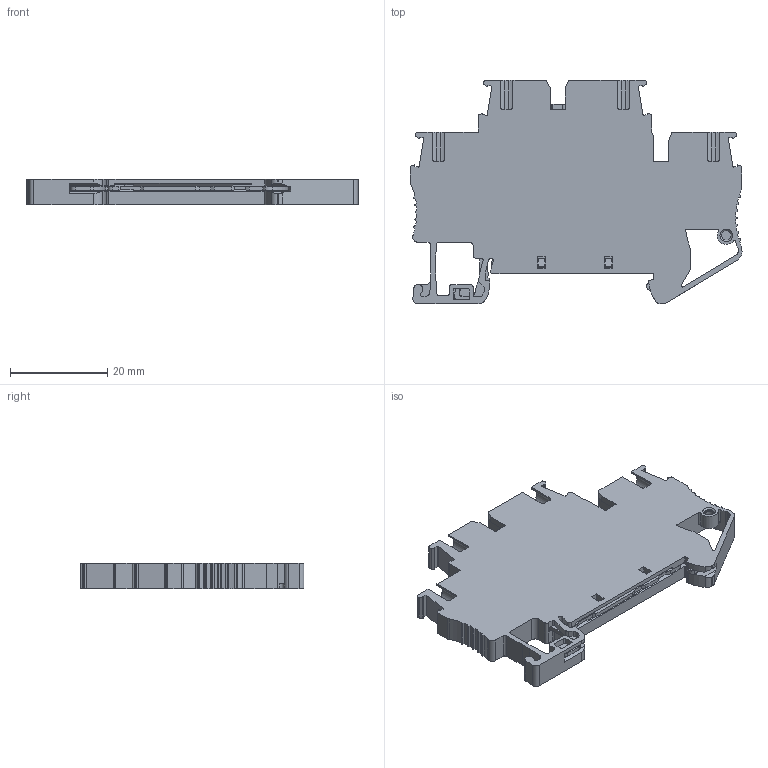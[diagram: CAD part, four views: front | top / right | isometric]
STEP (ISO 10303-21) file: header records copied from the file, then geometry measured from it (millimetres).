
FILE_DESCRIPTION(/* description */ (''),/* implementation_level */ '2;1');
FILE_NAME(/* name */ 'UPT-2.5-2PE ASSY.stp',/* time_stamp */ '2024-04-26T14:33:40+08:00',/* author */ (''),/* organization */ (''),/* preprocessor_version */ 'ST-DEVELOPER v16.7',/* originating_system */ 'SIEMENS PLM Software NX 12.0',/* authorisation */ '');
FILE_SCHEMA (('AUTOMOTIVE_DESIGN { 1 0 10303 214 3 1 1 1 }'));
Length unit declared in the file: millimetre
Products named in the file (1): Admi0EB4BAB8ixm4
Bounding box: 68.4 x 46.1 x 5.2 mm (x, y, z)
Volume: 9957.4 mm3; surface area: 9828.1 mm2
Topology: 1 solids, 10 shells, 1387 faces, 3948 edges, 2577 vertices
Faces by surface type: plane 799, cylinder 472, cone 72, torus 32, bspline 8, extrusion 4
Entity records: 46473 total; most frequent: CARTESIAN_POINT 9602, ORIENTED_EDGE 7896, DIRECTION 7640, EDGE_CURVE 3948, VECTOR 2736, LINE 2732, VERTEX_POINT 2577, AXIS2_PLACEMENT_3D 2452
